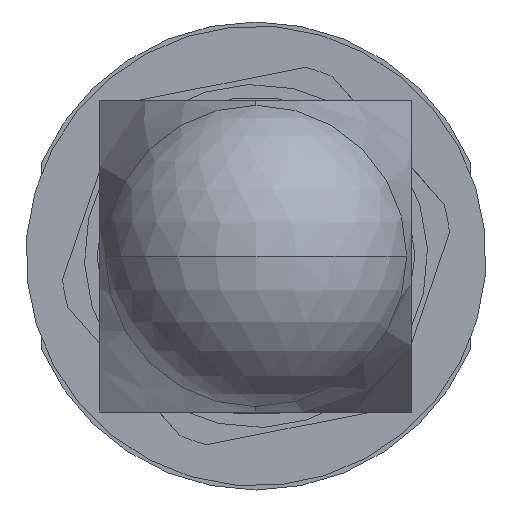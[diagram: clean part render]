
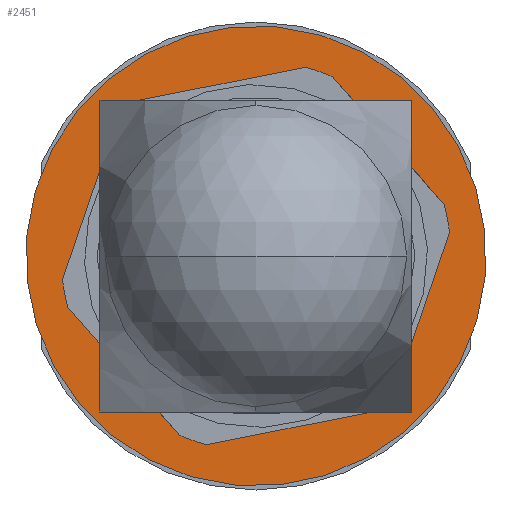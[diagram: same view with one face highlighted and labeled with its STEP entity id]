
A CAD part, front view. The second image highlights one B-rep face of the part: STEP entity #2451.
In plain terms, the highlighted planar face has unit normal (0, -1, 0).
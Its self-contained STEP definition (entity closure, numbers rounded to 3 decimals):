
#15 = ORIENTED_EDGE ( 'NONE', *, *, #2190, .T. ) ;
#370 = CARTESIAN_POINT ( 'NONE',  ( 0., -1445.167, 0. ) ) ;
#426 = EDGE_LOOP ( 'NONE', ( #1819, #2328 ) ) ;
#594 = VERTEX_POINT ( 'NONE', #1313 ) ;
#631 = AXIS2_PLACEMENT_3D ( 'NONE', #2010, #1172, #1743 ) ;
#680 = FACE_OUTER_BOUND ( 'NONE', #908, .T. ) ;
#695 = DIRECTION ( 'NONE',  ( 0., -1., 0. ) ) ;
#864 = EDGE_CURVE ( 'NONE', #1110, #868, #1645, .T. ) ;
#868 = VERTEX_POINT ( 'NONE', #3036 ) ;
#891 = EDGE_CURVE ( 'NONE', #594, #1288, #1871, .T. ) ;
#908 = EDGE_LOOP ( 'NONE', ( #15, #2966 ) ) ;
#982 = DIRECTION ( 'NONE',  ( 0., 0., 1. ) ) ;
#1110 = VERTEX_POINT ( 'NONE', #1217 ) ;
#1171 = AXIS2_PLACEMENT_3D ( 'NONE', #370, #1430, #2482 ) ;
#1172 = DIRECTION ( 'NONE',  ( 0., 1., 0. ) ) ;
#1217 = CARTESIAN_POINT ( 'NONE',  ( 4.4, -1445.167, 0. ) ) ;
#1224 = DIRECTION ( 'NONE',  ( 0., 0., 1. ) ) ;
#1288 = VERTEX_POINT ( 'NONE', #2613 ) ;
#1313 = CARTESIAN_POINT ( 'NONE',  ( 5.9, -1445.167, 0. ) ) ;
#1430 = DIRECTION ( 'NONE',  ( 0., -1., 0. ) ) ;
#1645 = CIRCLE ( 'NONE', #3095, 4.4 ) ;
#1743 = DIRECTION ( 'NONE',  ( 0., 0., 1. ) ) ;
#1790 = EDGE_CURVE ( 'NONE', #868, #1110, #1842, .T. ) ;
#1800 = FACE_BOUND ( 'NONE', #426, .T. ) ;
#1819 = ORIENTED_EDGE ( 'NONE', *, *, #1790, .F. ) ;
#1842 = CIRCLE ( 'NONE', #3163, 4.4 ) ;
#1871 = CIRCLE ( 'NONE', #2469, 5.9 ) ;
#1934 = CARTESIAN_POINT ( 'NONE',  ( 0., -1445.167, 0. ) ) ;
#2010 = CARTESIAN_POINT ( 'NONE',  ( 0., -1445.167, 0. ) ) ;
#2172 = DIRECTION ( 'NONE',  ( 0., -1., 0. ) ) ;
#2190 = EDGE_CURVE ( 'NONE', #1288, #594, #3281, .T. ) ;
#2328 = ORIENTED_EDGE ( 'NONE', *, *, #864, .F. ) ;
#2451 = ADVANCED_FACE ( 'NONE', ( #680, #1800 ), #2850, .F. ) ;
#2469 = AXIS2_PLACEMENT_3D ( 'NONE', #3345, #3054, #1224 ) ;
#2482 = DIRECTION ( 'NONE',  ( 0., 0., 1. ) ) ;
#2531 = CARTESIAN_POINT ( 'NONE',  ( 0., -1445.167, 0. ) ) ;
#2613 = CARTESIAN_POINT ( 'NONE',  ( -5.9, -1445.167, 0. ) ) ;
#2850 = PLANE ( 'NONE',  #631 ) ;
#2949 = DIRECTION ( 'NONE',  ( 0., 0., 1. ) ) ;
#2966 = ORIENTED_EDGE ( 'NONE', *, *, #891, .T. ) ;
#3036 = CARTESIAN_POINT ( 'NONE',  ( -4.4, -1445.167, 0. ) ) ;
#3054 = DIRECTION ( 'NONE',  ( 0., -1., 0. ) ) ;
#3095 = AXIS2_PLACEMENT_3D ( 'NONE', #2531, #695, #982 ) ;
#3163 = AXIS2_PLACEMENT_3D ( 'NONE', #1934, #2172, #2949 ) ;
#3281 = CIRCLE ( 'NONE', #1171, 5.9 ) ;
#3345 = CARTESIAN_POINT ( 'NONE',  ( 0., -1445.167, 0. ) ) ;
